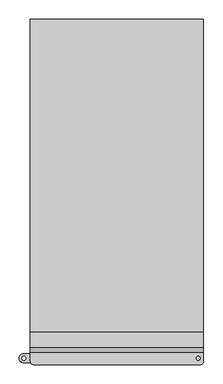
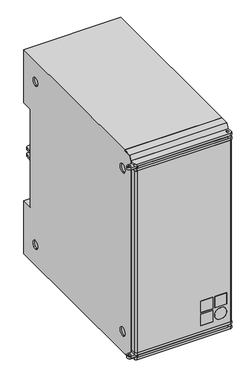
"""IFC4 building model written with IfcOpenShell, lengths in millimetres: proxy geometry, d&b SL-Series KSLi-SUB : KSLi-SUB."""

from ifc_helpers import new_model, si_unit, point, frame, frame_2d, origin, place, context, project, spatial, polyline, circle_curve, trimmed, segment, composite_curve, outline, extrude, source, transform, mapped, element, save
from ifc_brep_helpers import plane_surface, cylinder_surface, revolved_surface, advanced_brep


def communication_devices_a2a8249f(model_context):
    return source(origin(), model_context, "Body", "SolidModel", [
        extrude(outline(polyline([(2578.5, -246.9994027), (2634.5, -246.9994027), (2634.5, -256.9994027), (2578.5, -256.9994027), (2578.5, -246.9994027)])), frame((0.0, 0.0, 84.5), z_axis=(0.0, 0.0, 1.0), x_axis=(1.0, 0.0, 0.0)), (0.0, 0.0, 1.0), 56.0),
        extrude(outline(polyline([(2578.5, -246.9994027), (2634.5, -246.9994027), (2634.5, -256.9994027), (2578.5, -256.9994027), (2578.5, -246.9994027)])), frame((0.0, 0.0, 148.5), z_axis=(0.0, 0.0, 1.0), x_axis=(1.0, 0.0, 0.0)), (0.0, 0.0, 1.0), 56.0),
        extrude(outline(polyline([(2642.5, -246.9994027), (2698.5, -246.9994027), (2698.5, -256.9994027), (2642.5, -256.9994027), (2642.5, -246.9994027)])), frame((0.0, 0.0, 148.5), z_axis=(0.0, 0.0, 1.0), x_axis=(1.0, 0.0, 0.0)), (0.0, 0.0, 1.0), 56.0),
        extrude(outline(composite_curve([segment(trimmed(circle_curve(frame_2d((112.5, 2670.5)), 28.0), [point((84.5, 2670.5))], [point((140.5, 2670.5))], False, "CARTESIAN"), True, "CONTINUOUS"), segment(trimmed(circle_curve(frame_2d((112.5, 2670.5)), 28.0), [point((140.5, 2670.5))], [point((84.5, 2670.5))], False, "CARTESIAN"), True, "CONTINUOUS")], self_intersect=False)), frame((0.0, -256.9994027, 0.0), z_axis=(0.0, 1.0, 0.0), x_axis=(0.0, 0.0, 1.0)), (0.0, 0.0, 1.0), 10.0),
        advanced_brep(
        [(2275.0, -171.9994027, 1000.0), (2275.0, 639.2505973, 1000.0), (2275.0, 639.2505973, 740.0), (2275.0, 586.2505973, 740.0), (2275.0, 586.2505973, 260.0), (2275.0, 639.2505973, 260.0), (2275.0, 639.2505973, 0.0), (2275.0, -171.9994027, 0.0), (2275.0, -171.9994027, 3.0), (2275.0, -211.9316714, 3.0), (2275.0, -223.7673519, 23.5), (2275.0, -225.4994027, 23.5), (2275.0, -225.4994027, 976.5), (2275.0, -223.7673519, 976.5), (2275.0, -211.9316714, 997.0), (2275.0, -171.9994027, 997.0), (2275.0, 545.3281728, 80.7290498), (2275.0, 545.3281728, 119.5480947), (2275.0, -154.6718272, 79.3260723), (2275.0, -154.6718272, 120.3260723), (2275.0, 545.3281728, 919.2709502), (2275.0, 545.3281728, 880.4519053), (2275.0, -154.6718272, 920.6739277), (2275.0, -154.6718272, 879.6739277), (2725.0, -225.4994027, 976.5), (2725.0, -225.4994027, 23.5), (2725.0, 639.2505973, 1000.0), (2725.0, 639.2505973, 740.0), (2557.0, 639.2505973, 808.0), (2565.0, 639.2505973, 816.0), (2565.0, 639.2505973, 860.0), (2557.0, 639.2505973, 868.0), (2443.0, 639.2505973, 868.0), (2435.0, 639.2505973, 860.0), (2435.0, 639.2505973, 816.0), (2443.0, 639.2505973, 808.0), (2725.0, 586.2505973, 740.0), (2707.5431034, 586.2505973, 740.0), (2707.5431034, 561.2505973, 740.0), (2572.9310345, 561.2505973, 740.0), (2572.9310345, 586.2505973, 740.0), (2567.112069, 586.2505973, 740.0), (2567.112069, 561.2505973, 740.0), (2432.887931, 561.2505973, 740.0), (2432.887931, 586.2505973, 740.0), (2427.0689655, 586.2505973, 740.0), (2427.0689655, 561.2505973, 740.0), (2292.4568966, 561.2505973, 740.0), (2292.4568966, 586.2505973, 740.0), (2707.5431034, 561.2505973, 607.8420876), (2572.9310345, 561.2505973, 708.4158183), (2567.112069, 561.2505973, 705.4996607), (2701.7241379, 561.2505973, 604.92593), (2701.7241379, 561.2505973, 554.0), (2298.2758621, 561.2505973, 554.0), (2298.2758621, 561.2505973, 604.92593), (2432.887931, 561.2505973, 705.4996607), (2427.0689655, 561.2505973, 708.4158183), (2292.4568966, 561.2505973, 607.8420876), (2427.0689655, 561.2505973, 260.0), (2292.4568966, 561.2505973, 260.0), (2292.4568966, 561.2505973, 392.1579124), (2427.0689655, 561.2505973, 291.5841817), (2567.112069, 561.2505973, 260.0), (2432.887931, 561.2505973, 260.0), (2432.887931, 561.2505973, 294.5003393), (2298.2758621, 561.2505973, 395.07407), (2298.2758621, 561.2505973, 446.0), (2701.7241379, 561.2505973, 446.0), (2701.7241379, 561.2505973, 395.07407), (2567.112069, 561.2505973, 294.5003393), (2707.5431034, 561.2505973, 260.0), (2572.9310345, 561.2505973, 260.0), (2572.9310345, 561.2505973, 291.5841817), (2707.5431034, 561.2505973, 392.1579124), (2725.0, 639.2505973, 260.0), (2292.4568966, 586.2505973, 260.0), (2427.0689655, 586.2505973, 260.0), (2432.887931, 586.2505973, 260.0), (2567.112069, 586.2505973, 260.0), (2572.9310345, 586.2505973, 260.0), (2707.5431034, 586.2505973, 260.0), (2725.0, 586.2505973, 260.0), (2725.0, 639.2505973, 0.0), (2565.0, 639.2505973, 184.0), (2557.0, 639.2505973, 192.0), (2443.0, 639.2505973, 192.0), (2435.0, 639.2505973, 184.0), (2435.0, 639.2505973, 140.0), (2443.0, 639.2505973, 132.0), (2557.0, 639.2505973, 132.0), (2565.0, 639.2505973, 140.0), (2281.0, 545.3281728, 80.7290498), (2281.0, 545.3281728, 119.5480947), (2281.0, -154.6718272, 79.3260723), (2281.0, -154.6718272, 120.3260723), (2281.0, 545.3281728, 919.2709502), (2281.0, 545.3281728, 880.4519053), (2281.0, -154.6718272, 920.6739277), (2281.0, -154.6718272, 879.6739277), (2719.0, 545.3281728, 80.7290498), (2719.0, 545.3281728, 119.5480947), (2719.0, -154.6718272, 79.3260723), (2719.0, -154.6718272, 120.3260723), (2719.0, 545.3281728, 919.2709502), (2719.0, 545.3281728, 880.4519053), (2719.0, -154.6718272, 920.6739277), (2719.0, -154.6718272, 879.6739277), (2725.0, -171.9994027, 1000.0), (2725.0, -171.9994027, 997.0), (2725.0, -171.9994027, 0.0), (2725.0, -171.9994027, 3.0), (2725.0, -223.7673519, 976.5), (2725.0, -211.9316714, 997.0), (2725.0, -211.9316714, 3.0), (2725.0, -223.7673519, 23.5), (2725.0, 545.3281728, 80.7290498), (2725.0, 545.3281728, 119.5480947), (2725.0, -154.6718272, 79.3260723), (2725.0, -154.6718272, 120.3260723), (2725.0, 545.3281728, 919.2709502), (2725.0, 545.3281728, 880.4519053), (2725.0, -154.6718272, 920.6739277), (2725.0, -154.6718272, 879.6739277), (2292.4568966, 586.2505973, 607.8420876), (2427.0689655, 586.2505973, 708.4158183), (2432.887931, 586.2505973, 705.4996607), (2298.2758621, 586.2505973, 604.92593), (2298.2758621, 586.2505973, 554.0), (2701.7241379, 586.2505973, 554.0), (2701.7241379, 586.2505973, 604.92593), (2567.112069, 586.2505973, 705.4996607), (2572.9310345, 586.2505973, 708.4158183), (2707.5431034, 586.2505973, 607.8420876), (2707.5431034, 586.2505973, 392.1579124), (2572.9310345, 586.2505973, 291.5841817), (2567.112069, 586.2505973, 294.5003393), (2701.7241379, 586.2505973, 395.07407), (2701.7241379, 586.2505973, 446.0), (2298.2758621, 586.2505973, 446.0), (2298.2758621, 586.2505973, 395.07407), (2432.887931, 586.2505973, 294.5003393), (2427.0689655, 586.2505973, 291.5841817), (2292.4568966, 586.2505973, 392.1579124), (2557.0, 634.2505973, 192.0), (2565.0, 634.2505973, 184.0), (2565.0, 634.2505973, 140.0), (2557.0, 634.2505973, 132.0), (2443.0, 634.2505973, 132.0), (2435.0, 634.2505973, 140.0), (2435.0, 634.2505973, 184.0), (2443.0, 634.2505973, 192.0), (2445.0, 619.2505973, 818.0), (2445.0, 619.2505973, 858.0), (2555.0, 619.2505973, 858.0), (2555.0, 619.2505973, 818.0), (2445.0, 634.2505973, 818.0), (2445.0, 634.2505973, 858.0), (2555.0, 634.2505973, 858.0), (2555.0, 634.2505973, 818.0), (2557.0, 634.2505973, 808.0), (2443.0, 634.2505973, 808.0), (2435.0, 634.2505973, 816.0), (2435.0, 634.2505973, 860.0), (2443.0, 634.2505973, 868.0), (2557.0, 634.2505973, 868.0), (2565.0, 634.2505973, 860.0), (2565.0, 634.2505973, 816.0)],
        [
            (0, 1),
            (1, 2),
            (2, 3),
            (3, 4),
            (4, 5),
            (5, 6),
            (6, 7),
            (7, 8),
            (8, 9),
            (9, 10),
            (10, 11),
            (11, 12),
            (12, 13),
            (13, 14),
            (14, 15),
            (15, 0),
            (16, 17, circle_curve(frame((2275.0, 545.3281728, 100.1385723), z_axis=(1.0, 0.0, 0.0), x_axis=(0.0, 0.0, 1.0)), 19.4095225)),
            (17, 16, circle_curve(frame((2275.0, 545.3281728, 100.1385723), z_axis=(1.0, 0.0, 0.0), x_axis=(0.0, 0.0, 1.0)), 19.4095225)),
            (18, 19, circle_curve(frame((2275.0, -154.6718272, 99.8260723), z_axis=(1.0, 0.0, 0.0), x_axis=(0.0, 0.0, 1.0)), 20.5)),
            (19, 18, circle_curve(frame((2275.0, -154.6718272, 99.8260723), z_axis=(1.0, 0.0, 0.0), x_axis=(0.0, 0.0, 1.0)), 20.5)),
            (20, 21, circle_curve(frame((2275.0, 545.3281728, 899.8614277), z_axis=(1.0, 0.0, 0.0), x_axis=(0.0, 0.0, -1.0)), 19.4095225)),
            (21, 20, circle_curve(frame((2275.0, 545.3281728, 899.8614277), z_axis=(1.0, 0.0, 0.0), x_axis=(0.0, 0.0, -1.0)), 19.4095225)),
            (22, 23, circle_curve(frame((2275.0, -154.6718272, 900.1739277), z_axis=(1.0, 0.0, 0.0), x_axis=(0.0, 0.0, -1.0)), 20.5)),
            (23, 22, circle_curve(frame((2275.0, -154.6718272, 900.1739277), z_axis=(1.0, 0.0, 0.0), x_axis=(0.0, 0.0, -1.0)), 20.5)),
            (24, 12),
            (11, 25),
            (25, 24),
            (1, 26),
            (26, 27),
            (27, 2),
            (28, 29, circle_curve(frame((2557.0, 639.2505973, 816.0), z_axis=(0.0, -1.0, 0.0), x_axis=(0.0, 0.0, -1.0)), 8.0)),
            (29, 30),
            (30, 31, circle_curve(frame((2557.0, 639.2505973, 860.0), z_axis=(0.0, -1.0, 0.0), x_axis=(0.0, 0.0, -1.0)), 8.0)),
            (31, 32),
            (32, 33, circle_curve(frame((2443.0, 639.2505973, 860.0), z_axis=(0.0, -1.0, 0.0), x_axis=(0.0, 0.0, -1.0)), 8.0)),
            (33, 34),
            (34, 35, circle_curve(frame((2443.0, 639.2505973, 816.0), z_axis=(0.0, -1.0, 0.0), x_axis=(0.0, 0.0, -1.0)), 8.0)),
            (35, 28),
            (27, 36),
            (36, 37),
            (37, 38),
            (38, 39),
            (39, 40),
            (40, 41),
            (41, 42),
            (42, 43),
            (43, 44),
            (44, 45),
            (45, 46),
            (46, 47),
            (47, 48),
            (48, 3),
            (38, 49),
            (49, 50),
            (50, 39),
            (42, 51),
            (51, 52),
            (52, 53),
            (53, 54),
            (54, 55),
            (55, 56),
            (56, 43),
            (46, 57),
            (57, 58),
            (58, 47),
            (59, 60),
            (60, 61),
            (61, 62),
            (62, 59),
            (63, 64),
            (64, 65),
            (65, 66),
            (66, 67),
            (67, 68),
            (68, 69),
            (69, 70),
            (70, 63),
            (71, 72),
            (72, 73),
            (73, 74),
            (74, 71),
            (75, 5),
            (4, 76),
            (76, 60),
            (59, 77),
            (77, 78),
            (78, 64),
            (63, 79),
            (79, 80),
            (80, 72),
            (71, 81),
            (81, 82),
            (82, 75),
            (83, 6),
            (75, 83),
            (84, 85, circle_curve(frame((2557.0, 639.2505973, 184.0), z_axis=(0.0, -1.0, 0.0), x_axis=(0.0, 0.0, 1.0)), 8.0)),
            (85, 86),
            (86, 87, circle_curve(frame((2443.0, 639.2505973, 184.0), z_axis=(0.0, -1.0, 0.0), x_axis=(0.0, 0.0, 1.0)), 8.0)),
            (87, 88),
            (88, 89, circle_curve(frame((2443.0, 639.2505973, 140.0), z_axis=(0.0, -1.0, 0.0), x_axis=(0.0, 0.0, 1.0)), 8.0)),
            (89, 90),
            (90, 91, circle_curve(frame((2557.0, 639.2505973, 140.0), z_axis=(0.0, -1.0, 0.0), x_axis=(0.0, 0.0, 1.0)), 8.0)),
            (91, 84),
            (16, 92),
            (92, 93, circle_curve(frame((2281.0, 545.3281728, 100.1385723), z_axis=(1.0, 0.0, 0.0), x_axis=(0.0, 0.0, 1.0)), 19.4095225)),
            (93, 17),
            (93, 92, circle_curve(frame((2281.0, 545.3281728, 100.1385723), z_axis=(1.0, 0.0, 0.0), x_axis=(0.0, 0.0, 1.0)), 19.4095225)),
            (18, 94),
            (94, 95, circle_curve(frame((2281.0, -154.6718272, 99.8260723), z_axis=(1.0, 0.0, 0.0), x_axis=(0.0, 0.0, 1.0)), 20.5)),
            (95, 19),
            (95, 94, circle_curve(frame((2281.0, -154.6718272, 99.8260723), z_axis=(1.0, 0.0, 0.0), x_axis=(0.0, 0.0, 1.0)), 20.5)),
            (20, 96),
            (96, 97, circle_curve(frame((2281.0, 545.3281728, 899.8614277), z_axis=(1.0, 0.0, 0.0), x_axis=(0.0, 0.0, -1.0)), 19.4095225)),
            (97, 21),
            (97, 96, circle_curve(frame((2281.0, 545.3281728, 899.8614277), z_axis=(1.0, 0.0, 0.0), x_axis=(0.0, 0.0, -1.0)), 19.4095225)),
            (22, 98),
            (98, 99, circle_curve(frame((2281.0, -154.6718272, 900.1739277), z_axis=(1.0, 0.0, 0.0), x_axis=(0.0, 0.0, -1.0)), 20.5)),
            (99, 23),
            (99, 98, circle_curve(frame((2281.0, -154.6718272, 900.1739277), z_axis=(1.0, 0.0, 0.0), x_axis=(0.0, 0.0, -1.0)), 20.5)),
            (100, 101, circle_curve(frame((2719.0, 545.3281728, 100.1385723), z_axis=(1.0, 0.0, 0.0), x_axis=(0.0, 0.0, 1.0)), 19.4095225)),
            (101, 100, circle_curve(frame((2719.0, 545.3281728, 100.1385723), z_axis=(1.0, 0.0, 0.0), x_axis=(0.0, 0.0, 1.0)), 19.4095225)),
            (102, 103, circle_curve(frame((2719.0, -154.6718272, 99.8260723), z_axis=(1.0, 0.0, 0.0), x_axis=(0.0, 0.0, 1.0)), 20.5)),
            (103, 102, circle_curve(frame((2719.0, -154.6718272, 99.8260723), z_axis=(1.0, 0.0, 0.0), x_axis=(0.0, 0.0, 1.0)), 20.5)),
            (104, 105, circle_curve(frame((2719.0, 545.3281728, 899.8614277), z_axis=(1.0, 0.0, 0.0), x_axis=(0.0, 0.0, -1.0)), 19.4095225)),
            (105, 104, circle_curve(frame((2719.0, 545.3281728, 899.8614277), z_axis=(1.0, 0.0, 0.0), x_axis=(0.0, 0.0, -1.0)), 19.4095225)),
            (106, 107, circle_curve(frame((2719.0, -154.6718272, 900.1739277), z_axis=(1.0, 0.0, 0.0), x_axis=(0.0, 0.0, -1.0)), 20.5)),
            (107, 106, circle_curve(frame((2719.0, -154.6718272, 900.1739277), z_axis=(1.0, 0.0, 0.0), x_axis=(0.0, 0.0, -1.0)), 20.5)),
            (0, 108),
            (108, 26),
            (15, 109),
            (109, 108),
            (83, 110),
            (110, 7),
            (110, 111),
            (111, 8),
            (24, 112),
            (112, 13),
            (112, 113),
            (113, 14),
            (113, 109),
            (111, 114),
            (114, 9),
            (114, 115),
            (115, 10),
            (115, 25),
            (82, 36),
            (116, 117, circle_curve(frame((2725.0, 545.3281728, 100.1385723), z_axis=(-1.0, 0.0, 0.0), x_axis=(0.0, 0.0, 1.0)), 19.4095225)),
            (117, 116, circle_curve(frame((2725.0, 545.3281728, 100.1385723), z_axis=(-1.0, 0.0, 0.0), x_axis=(0.0, 0.0, 1.0)), 19.4095225)),
            (118, 119, circle_curve(frame((2725.0, -154.6718272, 99.8260723), z_axis=(-1.0, 0.0, 0.0), x_axis=(0.0, 0.0, 1.0)), 20.5)),
            (119, 118, circle_curve(frame((2725.0, -154.6718272, 99.8260723), z_axis=(-1.0, 0.0, 0.0), x_axis=(0.0, 0.0, 1.0)), 20.5)),
            (120, 121, circle_curve(frame((2725.0, 545.3281728, 899.8614277), z_axis=(-1.0, 0.0, 0.0), x_axis=(0.0, 0.0, -1.0)), 19.4095225)),
            (121, 120, circle_curve(frame((2725.0, 545.3281728, 899.8614277), z_axis=(-1.0, 0.0, 0.0), x_axis=(0.0, 0.0, -1.0)), 19.4095225)),
            (122, 123, circle_curve(frame((2725.0, -154.6718272, 900.1739277), z_axis=(-1.0, 0.0, 0.0), x_axis=(0.0, 0.0, -1.0)), 20.5)),
            (123, 122, circle_curve(frame((2725.0, -154.6718272, 900.1739277), z_axis=(-1.0, 0.0, 0.0), x_axis=(0.0, 0.0, -1.0)), 20.5)),
            (117, 101),
            (100, 116),
            (119, 103),
            (102, 118),
            (121, 105),
            (104, 120),
            (123, 107),
            (106, 122),
            (48, 124),
            (124, 125),
            (125, 45),
            (44, 126),
            (126, 127),
            (127, 128),
            (128, 129),
            (129, 130),
            (130, 131),
            (131, 41),
            (40, 132),
            (132, 133),
            (133, 37),
            (81, 134),
            (134, 135),
            (135, 80),
            (79, 136),
            (136, 137),
            (137, 138),
            (138, 139),
            (139, 140),
            (140, 141),
            (141, 78),
            (77, 142),
            (142, 143),
            (143, 76),
            (125, 57),
            (124, 58),
            (128, 54),
            (53, 129),
            (56, 126),
            (55, 127),
            (52, 130),
            (51, 131),
            (132, 50),
            (49, 133),
            (74, 134),
            (73, 135),
            (70, 136),
            (69, 137),
            (68, 138),
            (67, 139),
            (66, 140),
            (65, 141),
            (62, 142),
            (61, 143),
            (144, 145, circle_curve(frame((2557.0, 634.2505973, 184.0), z_axis=(0.0, 1.0, 0.0), x_axis=(0.0, 0.0, 1.0)), 8.0)),
            (145, 146),
            (146, 147, circle_curve(frame((2557.0, 634.2505973, 140.0), z_axis=(0.0, 1.0, 0.0), x_axis=(0.0, 0.0, 1.0)), 8.0)),
            (147, 148),
            (148, 149, circle_curve(frame((2443.0, 634.2505973, 140.0), z_axis=(0.0, 1.0, 0.0), x_axis=(0.0, 0.0, 1.0)), 8.0)),
            (149, 150),
            (150, 151, circle_curve(frame((2443.0, 634.2505973, 184.0), z_axis=(0.0, 1.0, 0.0), x_axis=(0.0, 0.0, 1.0)), 8.0)),
            (151, 144),
            (144, 85),
            (84, 145),
            (91, 146),
            (90, 147),
            (89, 148),
            (88, 149),
            (87, 150),
            (86, 151),
            (152, 153),
            (153, 154),
            (154, 155),
            (155, 152),
            (152, 156),
            (156, 157),
            (157, 153),
            (157, 158),
            (158, 154),
            (158, 159),
            (159, 155),
            (159, 156),
            (160, 161),
            (161, 162, circle_curve(frame((2443.0, 634.2505973, 816.0), z_axis=(0.0, 1.0, 0.0), x_axis=(0.0, 0.0, -1.0)), 8.0)),
            (162, 163),
            (163, 164, circle_curve(frame((2443.0, 634.2505973, 860.0), z_axis=(0.0, 1.0, 0.0), x_axis=(0.0, 0.0, -1.0)), 8.0)),
            (164, 165),
            (165, 166, circle_curve(frame((2557.0, 634.2505973, 860.0), z_axis=(0.0, 1.0, 0.0), x_axis=(0.0, 0.0, -1.0)), 8.0)),
            (166, 167),
            (167, 160, circle_curve(frame((2557.0, 634.2505973, 816.0), z_axis=(0.0, 1.0, 0.0), x_axis=(0.0, 0.0, -1.0)), 8.0)),
            (167, 29),
            (28, 160),
            (166, 30),
            (165, 31),
            (164, 32),
            (163, 33),
            (162, 34),
            (161, 35),
        ],
        [
            plane_surface(frame((2275.0, -225.4994027, 930.0), z_axis=(-1.0, 0.0, 0.0), x_axis=(0.0, 1.0, 0.0))),
            plane_surface(frame((2275.0, -225.4994027, 70.0), z_axis=(0.0, -1.0, 0.0), x_axis=(1.0, 0.0, 0.0))),
            plane_surface(frame((2275.0, 639.2505973, 930.0), z_axis=(0.0, 1.0, 0.0), x_axis=(1.0, 0.0, 0.0))),
            plane_surface(frame((2275.0, 639.2505973, 740.0), z_axis=(0.0, 0.0, -1.0), x_axis=(1.0, 0.0, 0.0))),
            plane_surface(frame((2275.0, 561.2505973, 740.0), z_axis=(0.0, 1.0, 0.0), x_axis=(1.0, 0.0, 0.0))),
            plane_surface(frame((2275.0, 561.2505973, 260.0), z_axis=(0.0, 0.0, 1.0), x_axis=(1.0, 0.0, 0.0))),
            plane_surface(frame((2275.0, 639.2505973, 260.0), z_axis=(0.0, 1.0, 0.0), x_axis=(1.0, 0.0, 0.0))),
            revolved_surface(polyline([(2281.0, 545.3281728, 119.5480948), (2275.0, 545.3281728, 119.5480948)]), (2250.0, 545.3281728, 100.1385723), (1.0, 0.0, 0.0)),
            revolved_surface(polyline([(2281.0, -154.6718272, 120.3260723), (2275.0, -154.6718272, 120.3260723)]), (2250.0, -154.6718272, 99.8260723), (1.0, 0.0, 0.0)),
            revolved_surface(polyline([(2281.0, 545.3281728, 880.4519052), (2275.0, 545.3281728, 880.4519052)]), (2250.0, 545.3281728, 899.8614277), (1.0, 0.0, 0.0)),
            revolved_surface(polyline([(2281.0, -154.6718272, 879.6739277), (2275.0, -154.6718272, 879.6739277)]), (2250.0, -154.6718272, 900.1739277), (1.0, 0.0, 0.0)),
            plane_surface(frame((2719.0, -225.4994027, 930.0), z_axis=(1.0, 0.0, 0.0), x_axis=(0.0, -1.0, 0.0))),
            plane_surface(frame((2281.0, -225.4994027, 930.0), z_axis=(-1.0, 0.0, 0.0), x_axis=(0.0, 1.0, 0.0))),
            plane_surface(frame((2275.0, 960.0005973, 1000.0), z_axis=(0.0, 0.0, 1.0), x_axis=(0.0, -1.0, 0.0))),
            plane_surface(frame((2725.0, -171.9994027, 930.0), z_axis=(0.0, -1.0, 0.0), x_axis=(0.0, 0.0, 1.0))),
            plane_surface(frame((2804.8, -171.9994027, 0.0), z_axis=(0.0, 0.0, -1.0), x_axis=(-1.0, 0.0, 0.0))),
            plane_surface(frame((2275.0, -171.9994027, 70.0), z_axis=(0.0, -1.0, 0.0), x_axis=(0.0, 0.0, -1.0))),
            plane_surface(frame((2275.0, -225.4994027, 976.5), z_axis=(0.0, 0.0, 1.0), x_axis=(1.0, 0.0, 0.0))),
            plane_surface(frame((2275.0, -223.7673519, 976.5), z_axis=(0.0, -0.86602540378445, 0.4999999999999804), x_axis=(1.0, 0.0, 0.0))),
            plane_surface(frame((2275.0, -211.9316714, 997.0), z_axis=(0.0, 0.0, 1.0), x_axis=(1.0, 0.0, 0.0))),
            plane_surface(frame((2275.0, -171.9994027, 3.0), z_axis=(0.0, 0.0, -1.0), x_axis=(1.0, 0.0, 0.0))),
            plane_surface(frame((2275.0, -211.9316714, 3.0), z_axis=(0.0, -0.8660254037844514, -0.49999999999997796), x_axis=(1.0, 0.0, 0.0))),
            plane_surface(frame((2275.0, -223.7673519, 23.5), z_axis=(0.0, 0.0, -1.0), x_axis=(1.0, 0.0, 0.0))),
            plane_surface(frame((2725.0, 639.2505973, 930.0), z_axis=(1.0, 0.0, 0.0), x_axis=(0.0, 0.0, 1.0))),
            revolved_surface(polyline([(2725.0, 545.3281728, 119.5480948), (2719.0, 545.3281728, 119.5480948)]), (2810.0, 545.3281728, 100.1385723), (1.0, 0.0, 0.0)),
            revolved_surface(polyline([(2725.0, -154.6718272, 120.3260723), (2719.0, -154.6718272, 120.3260723)]), (2810.0, -154.6718272, 99.8260723), (1.0, 0.0, 0.0)),
            revolved_surface(polyline([(2725.0, 545.3281728, 880.4519052), (2719.0, 545.3281728, 880.4519052)]), (2810.0, 545.3281728, 899.8614277), (1.0, 0.0, 0.0)),
            revolved_surface(polyline([(2725.0, -154.6718272, 879.6739277), (2719.0, -154.6718272, 879.6739277)]), (2810.0, -154.6718272, 900.1739277), (1.0, 0.0, 0.0)),
            plane_surface(frame((2857.4784483, 586.2505973, 740.0), z_axis=(0.0, 1.0, 0.0), x_axis=(1.0, 0.0, 0.0))),
            plane_surface(frame((2427.0689655, 586.2505973, 708.4158183), z_axis=(-1.0, 0.0, 0.0), x_axis=(0.0, -1.0, 0.0))),
            plane_surface(frame((2292.4568966, 586.2505973, 607.8420876), z_axis=(-0.598531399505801, 0.0, 0.8010993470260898), x_axis=(0.0, -1.0, 0.0))),
            plane_surface(frame((2298.2758621, 586.2505973, 554.0), z_axis=(0.0, 0.0, 1.0), x_axis=(0.0, -1.0, 0.0))),
            plane_surface(frame((2432.887931, 586.2505973, 740.0), z_axis=(1.0, 0.0, 0.0), x_axis=(0.0, -1.0, 0.0))),
            plane_surface(frame((2432.887931, 586.2505973, 705.4996607), z_axis=(0.5985313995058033, 0.0, -0.801099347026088), x_axis=(0.0, -1.0, 0.0))),
            plane_surface(frame((2298.2758621, 586.2505973, 604.92593), z_axis=(1.0, 0.0, 0.0), x_axis=(0.0, -1.0, 0.0))),
            plane_surface(frame((2701.7241379, 586.2505973, 554.0), z_axis=(-1.0, 0.0, 0.0), x_axis=(0.0, -1.0, 0.0))),
            plane_surface(frame((2701.7241379, 586.2505973, 604.92593), z_axis=(-0.5985313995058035, 0.0, -0.8010993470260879), x_axis=(0.0, -1.0, 0.0))),
            plane_surface(frame((2567.112069, 586.2505973, 705.4996607), z_axis=(-1.0, 0.0, 0.0), x_axis=(0.0, -1.0, 0.0))),
            plane_surface(frame((2292.4568966, 586.2505973, 740.0), z_axis=(1.0, 0.0, 0.0), x_axis=(0.0, -1.0, 0.0))),
            plane_surface(frame((2572.9310345, 586.2505973, 708.4158183), z_axis=(0.5985313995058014, 0.0, 0.8010993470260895), x_axis=(0.0, -1.0, 0.0))),
            plane_surface(frame((2707.5431034, 586.2505973, 607.8420876), z_axis=(-1.0, 0.0, 0.0), x_axis=(0.0, -1.0, 0.0))),
            plane_surface(frame((2572.9310345, 586.2505973, 740.0), z_axis=(1.0, 0.0, 0.0), x_axis=(0.0, -1.0, 0.0))),
            plane_surface(frame((2707.5431034, 586.2505973, 260.0), z_axis=(-1.0, 0.0, 0.0), x_axis=(0.0, -1.0, 0.0))),
            plane_surface(frame((2707.5431034, 586.2505973, 392.1579124), z_axis=(0.5985313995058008, 0.0, -0.8010993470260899), x_axis=(0.0, -1.0, 0.0))),
            plane_surface(frame((2572.9310345, 586.2505973, 291.5841817), z_axis=(1.0, 0.0, 0.0), x_axis=(0.0, -1.0, 0.0))),
            plane_surface(frame((2567.112069, 586.2505973, 260.0), z_axis=(-1.0, 0.0, 0.0), x_axis=(0.0, -1.0, 0.0))),
            plane_surface(frame((2567.112069, 586.2505973, 294.5003393), z_axis=(-0.5985313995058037, 0.0, 0.8010993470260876), x_axis=(0.0, -1.0, 0.0))),
            plane_surface(frame((2701.7241379, 586.2505973, 395.07407), z_axis=(-1.0, 0.0, 0.0), x_axis=(0.0, -1.0, 0.0))),
            plane_surface(frame((2701.7241379, 586.2505973, 446.0), z_axis=(0.0, 0.0, -1.0), x_axis=(0.0, -1.0, 0.0))),
            plane_surface(frame((2298.2758621, 586.2505973, 446.0), z_axis=(1.0, 0.0, 0.0), x_axis=(0.0, -1.0, 0.0))),
            plane_surface(frame((2298.2758621, 586.2505973, 395.07407), z_axis=(0.5985313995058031, 0.0, 0.8010993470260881), x_axis=(0.0, -1.0, 0.0))),
            plane_surface(frame((2432.887931, 586.2505973, 294.5003393), z_axis=(1.0, 0.0, 0.0), x_axis=(0.0, -1.0, 0.0))),
            plane_surface(frame((2427.0689655, 586.2505973, 260.0), z_axis=(-1.0, 0.0, 0.0), x_axis=(0.0, -1.0, 0.0))),
            plane_surface(frame((2427.0689655, 586.2505973, 291.5841817), z_axis=(-0.5985313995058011, 0.0, -0.8010993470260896), x_axis=(0.0, -1.0, 0.0))),
            plane_surface(frame((2292.4568966, 586.2505973, 392.1579124), z_axis=(1.0, 0.0, 0.0), x_axis=(0.0, -1.0, 0.0))),
            plane_surface(frame((2433.0, 634.2505973, 192.0), z_axis=(0.0, 1.0, 0.0), x_axis=(-1.0, 0.0, 0.0))),
            revolved_surface(polyline([(2557.0, 634.2505973, 192.0), (2557.0, 639.2505973, 192.0)]), (2557.0, 639.2505973, 184.0), (0.0, -1.0, 0.0)),
            plane_surface(frame((2565.0, 634.2505973, 140.0), z_axis=(-1.0, 0.0, 0.0), x_axis=(0.0, 1.0, 0.0))),
            revolved_surface(polyline([(2557.0, 634.2505973, 148.0), (2557.0, 639.2505973, 148.0)]), (2557.0, 639.2505973, 140.0), (0.0, -1.0, 0.0)),
            plane_surface(frame((2443.0, 634.2505973, 132.0), z_axis=(0.0, 0.0, 1.0), x_axis=(0.0, 1.0, 0.0))),
            revolved_surface(polyline([(2443.0, 634.2505973, 148.0), (2443.0, 639.2505973, 148.0)]), (2443.0, 639.2505973, 140.0), (0.0, -1.0, 0.0)),
            plane_surface(frame((2435.0, 634.2505973, 184.0), z_axis=(1.0, 0.0, 0.0), x_axis=(0.0, 1.0, 0.0))),
            revolved_surface(polyline([(2443.0, 634.2505973, 192.0), (2443.0, 639.2505973, 192.0)]), (2443.0, 639.2505973, 184.0), (0.0, -1.0, 0.0)),
            plane_surface(frame((2557.0, 634.2505973, 192.0), z_axis=(0.0, 0.0, -1.0), x_axis=(0.0, 1.0, 0.0))),
            plane_surface(frame((2433.0, 619.2505973, 818.0), z_axis=(0.0, 1.0, 0.0), x_axis=(1.0, 0.0, 0.0))),
            plane_surface(frame((2445.0, 619.2505973, 858.0), z_axis=(1.0, 0.0, 0.0), x_axis=(0.0, 1.0, 0.0))),
            plane_surface(frame((2555.0, 619.2505973, 858.0), z_axis=(0.0, 0.0, -1.0), x_axis=(0.0, 1.0, 0.0))),
            plane_surface(frame((2555.0, 619.2505973, 818.0), z_axis=(-1.0, 0.0, 0.0), x_axis=(0.0, 1.0, 0.0))),
            plane_surface(frame((2445.0, 619.2505973, 818.0), z_axis=(0.0, 0.0, 1.0), x_axis=(0.0, 1.0, 0.0))),
            plane_surface(frame((2557.0, 634.2505973, 808.0), z_axis=(0.0, 1.0, 0.0), x_axis=(1.0, 0.0, 0.0))),
            revolved_surface(polyline([(2557.0, 634.2505973, 808.0), (2557.0, 639.2505973, 808.0)]), (2557.0, 639.2505973, 816.0), (0.0, -1.0, 0.0)),
            plane_surface(frame((2565.0, 634.2505973, 816.0), z_axis=(-1.0, 0.0, 0.0), x_axis=(0.0, 1.0, 0.0))),
            revolved_surface(polyline([(2557.0, 634.2505973, 852.0), (2557.0, 639.2505973, 852.0)]), (2557.0, 639.2505973, 860.0), (0.0, -1.0, 0.0)),
            plane_surface(frame((2557.0, 634.2505973, 868.0), z_axis=(0.0, 0.0, -1.0), x_axis=(0.0, 1.0, 0.0))),
            revolved_surface(polyline([(2443.0, 634.2505973, 852.0), (2443.0, 639.2505973, 852.0)]), (2443.0, 639.2505973, 860.0), (0.0, -1.0, 0.0)),
            plane_surface(frame((2435.0, 634.2505973, 860.0), z_axis=(1.0, 0.0, 0.0), x_axis=(0.0, 1.0, 0.0))),
            revolved_surface(polyline([(2443.0, 634.2505973, 808.0), (2443.0, 639.2505973, 808.0)]), (2443.0, 639.2505973, 816.0), (0.0, -1.0, 0.0)),
            plane_surface(frame((2443.0, 634.2505973, 808.0), z_axis=(0.0, 0.0, 1.0), x_axis=(0.0, 1.0, 0.0))),
        ],
        [
            (0, [[1, 2, 3, 4, 5, 6, 7, 8, 9, 10, 11, 12, 13, 14, 15, 16], [17, 18], [19, 20], [21, 22], [23, 24]]),
            (1, [[25, -12, 26, 27]]),
            (2, [[28, 29, 30, -2], [31, 32, 33, 34, 35, 36, 37, 38]]),
            (3, [[-30, 39, 40, 41, 42, 43, 44, 45, 46, 47, 48, 49, 50, 51, 52, -3]]),
            (4, [[-42, 53, 54, 55]]),
            (4, [[-46, 56, 57, 58, 59, 60, 61, 62]]),
            (4, [[-50, 63, 64, 65]]),
            (4, [[66, 67, 68, 69]]),
            (4, [[70, 71, 72, 73, 74, 75, 76, 77]]),
            (4, [[78, 79, 80, 81]]),
            (5, [[82, -5, 83, 84, -66, 85, 86, 87, -70, 88, 89, 90, -78, 91, 92, 93]]),
            (6, [[94, -6, -82, 95], [96, 97, 98, 99, 100, 101, 102, 103]]),
            (7, [[-17, 104, 105, 106]]),
            (7, [[-18, -106, 107, -104]]),
            (8, [[-19, 108, 109, 110]]),
            (8, [[-20, -110, 111, -108]]),
            (9, [[-21, 112, 113, 114]]),
            (9, [[-22, -114, 115, -112]]),
            (10, [[-23, 116, 117, 118]]),
            (10, [[-24, -118, 119, -116]]),
            (11, [[120, 121]]),
            (11, [[122, 123]]),
            (11, [[124, 125]]),
            (11, [[126, 127]]),
            (12, [[-105, -107]]),
            (12, [[-109, -111]]),
            (12, [[-113, -115]]),
            (12, [[-117, -119]]),
            (13, [[128, 129, -28, -1]]),
            (14, [[-128, -16, 130, 131]]),
            (15, [[-7, -94, 132, 133]]),
            (16, [[-133, 134, 135, -8]]),
            (17, [[-13, -25, 136, 137]]),
            (18, [[-14, -137, 138, 139]]),
            (19, [[-15, -139, 140, -130]]),
            (20, [[-9, -135, 141, 142]]),
            (21, [[-10, -142, 143, 144]]),
            (22, [[-11, -144, 145, -26]]),
            (23, [[-129, -131, -140, -138, -136, -27, -145, -143, -141, -134, -132, -95, -93, 146, -39, -29], [147, 148], [149, 150], [151, 152], [153, 154]]),
            (24, [[-148, 155, -120, 156]]),
            (24, [[-147, -156, -121, -155]]),
            (25, [[-150, 157, -122, 158]]),
            (25, [[-149, -158, -123, -157]]),
            (26, [[-152, 159, -124, 160]]),
            (26, [[-151, -160, -125, -159]]),
            (27, [[-154, 161, -126, 162]]),
            (27, [[-153, -162, -127, -161]]),
            (28, [[163, 164, 165, -48, 166, 167, 168, 169, 170, 171, 172, -44, 173, 174, 175, -40, -146, -92, 176, 177, 178, -89, 179, 180, 181, 182, 183, 184, 185, -86, 186, 187, 188, -83, -4, -52]]),
            (29, [[-165, 189, -63, -49]]),
            (30, [[-164, 190, -64, -189]]),
            (31, [[-169, 191, -59, 192]]),
            (32, [[-166, -47, -62, 193]]),
            (33, [[-167, -193, -61, 194]]),
            (34, [[-168, -194, -60, -191]]),
            (35, [[-170, -192, -58, 195]]),
            (36, [[-171, -195, -57, 196]]),
            (37, [[-172, -196, -56, -45]]),
            (38, [[-163, -51, -65, -190]]),
            (39, [[-174, 197, -54, 198]]),
            (40, [[-175, -198, -53, -41]]),
            (41, [[-173, -43, -55, -197]]),
            (42, [[-176, -91, -81, 199]]),
            (43, [[-177, -199, -80, 200]]),
            (44, [[-178, -200, -79, -90]]),
            (45, [[-179, -88, -77, 201]]),
            (46, [[-180, -201, -76, 202]]),
            (47, [[-181, -202, -75, 203]]),
            (48, [[-182, -203, -74, 204]]),
            (49, [[-183, -204, -73, 205]]),
            (50, [[-184, -205, -72, 206]]),
            (51, [[-185, -206, -71, -87]]),
            (52, [[-186, -85, -69, 207]]),
            (53, [[-187, -207, -68, 208]]),
            (54, [[-188, -208, -67, -84]]),
            (55, [[209, 210, 211, 212, 213, 214, 215, 216]]),
            (56, [[-209, 217, -96, 218]]),
            (57, [[-210, -218, -103, 219]]),
            (58, [[-211, -219, -102, 220]]),
            (59, [[-212, -220, -101, 221]]),
            (60, [[-213, -221, -100, 222]]),
            (61, [[-214, -222, -99, 223]]),
            (62, [[-215, -223, -98, 224]]),
            (63, [[-216, -224, -97, -217]]),
            (64, [[225, 226, 227, 228]]),
            (65, [[-225, 229, 230, 231]]),
            (66, [[-226, -231, 232, 233]]),
            (67, [[-227, -233, 234, 235]]),
            (68, [[-228, -235, 236, -229]]),
            (69, [[237, 238, 239, 240, 241, 242, 243, 244], [-230, -236, -234, -232]]),
            (70, [[-244, 245, -31, 246]]),
            (71, [[-243, 247, -32, -245]]),
            (72, [[-242, 248, -33, -247]]),
            (73, [[-241, 249, -34, -248]]),
            (74, [[-240, 250, -35, -249]]),
            (75, [[-239, 251, -36, -250]]),
            (76, [[-238, 252, -37, -251]]),
            (77, [[-237, -246, -38, -252]]),
        ],
    ),
        extrude(outline(composite_curve([segment(trimmed(circle_curve(frame_2d((816.0, 2557.0)), 8.0), [point((808.0, 2557.0))], [point((816.0, 2565.0))], False, "CARTESIAN"), True, "CONTINUOUS"), segment(polyline([(816.0, 2565.0), (860.0, 2565.0)]), True, "CONTINUOUS"), segment(trimmed(circle_curve(frame_2d((860.0, 2557.0)), 8.0), [point((860.0, 2565.0))], [point((868.0, 2557.0))], False, "CARTESIAN"), True, "CONTINUOUS"), segment(polyline([(868.0, 2557.0), (868.0, 2443.0)]), True, "CONTINUOUS"), segment(trimmed(circle_curve(frame_2d((860.0, 2443.0)), 8.0), [point((868.0, 2443.0))], [point((860.0, 2435.0))], False, "CARTESIAN"), True, "CONTINUOUS"), segment(polyline([(860.0, 2435.0), (816.0, 2435.0)]), True, "CONTINUOUS"), segment(trimmed(circle_curve(frame_2d((816.0, 2443.0)), 8.0), [point((816.0, 2435.0))], [point((808.0, 2443.0))], False, "CARTESIAN"), True, "CONTINUOUS"), segment(polyline([(808.0, 2443.0), (808.0, 2557.0)]), True, "CONTINUOUS")], self_intersect=False), holes=[polyline([(818.0, 2445.0), (858.0, 2445.0), (858.0, 2555.0), (818.0, 2555.0), (818.0, 2445.0)])]), frame((0.0, 634.2505973, 0.0), z_axis=(0.0, 1.0, 0.0), x_axis=(0.0, 0.0, 1.0)), (0.0, 0.0, 1.0), 5.0),
        extrude(outline(composite_curve([segment(polyline([(2718.9562557, 592.2505973), (2281.0437443, 592.2505973), (2284.2334182, 628.7087366)]), True, "CONTINUOUS"), segment(trimmed(circle_curve(frame_2d((2294.2752789, 628.7087366)), 10.0418607), [point((2284.2334182, 628.7087366))], [point((2294.2752789, 638.7505973))], False, "CARTESIAN"), True, "CONTINUOUS"), segment(polyline([(2294.2752789, 638.7505973), (2705.7247211, 638.7505973)]), True, "CONTINUOUS"), segment(trimmed(circle_curve(frame_2d((2705.7247211, 628.7505973)), 10.0), [point((2705.7247211, 638.7505973))], [point((2715.6866681, 629.6221547))], False, "CARTESIAN"), True, "CONTINUOUS"), segment(polyline([(2715.6866681, 629.6221547), (2718.9562557, 592.2505973)]), True, "CONTINUOUS")], self_intersect=False)), frame((0.0, 0.0, 478.75), z_axis=(0.0, 0.0, 1.0), x_axis=(1.0, 0.0, 0.0)), (0.0, 0.0, 1.0), 10.0),
        extrude(outline(composite_curve([segment(polyline([(2718.9562557, 592.2505973), (2281.0437443, 592.2505973), (2284.2334182, 628.7087366)]), True, "CONTINUOUS"), segment(trimmed(circle_curve(frame_2d((2294.2752789, 628.7087366)), 10.0418607), [point((2284.2334182, 628.7087366))], [point((2294.2752789, 638.7505973))], False, "CARTESIAN"), True, "CONTINUOUS"), segment(polyline([(2294.2752789, 638.7505973), (2705.7247211, 638.7505973)]), True, "CONTINUOUS"), segment(trimmed(circle_curve(frame_2d((2705.7247211, 628.7505973)), 10.0), [point((2705.7247211, 638.7505973))], [point((2715.6866681, 629.6221547))], False, "CARTESIAN"), True, "CONTINUOUS"), segment(polyline([(2715.6866681, 629.6221547), (2718.9562557, 592.2505973)]), True, "CONTINUOUS")], self_intersect=False)), frame((0.0, 0.0, 511.25), z_axis=(0.0, 0.0, 1.0), x_axis=(1.0, 0.0, 0.0)), (0.0, 0.0, 1.0), 10.0),
        extrude(outline(composite_curve([segment(trimmed(circle_curve(frame_2d((456.0, 2709.0)), 10.0), [point((446.0, 2709.0))], [point((456.0, 2719.0))], False, "CARTESIAN"), True, "CONTINUOUS"), segment(polyline([(456.0, 2719.0), (544.0, 2719.0)]), True, "CONTINUOUS"), segment(trimmed(circle_curve(frame_2d((544.0, 2709.0)), 10.0), [point((544.0, 2719.0))], [point((554.0, 2709.0))], False, "CARTESIAN"), True, "CONTINUOUS"), segment(polyline([(554.0, 2709.0), (554.0, 2291.0)]), True, "CONTINUOUS"), segment(trimmed(circle_curve(frame_2d((544.0, 2291.0)), 10.0), [point((554.0, 2291.0))], [point((544.0, 2281.0))], False, "CARTESIAN"), True, "CONTINUOUS"), segment(polyline([(544.0, 2281.0), (456.0, 2281.0)]), True, "CONTINUOUS"), segment(trimmed(circle_curve(frame_2d((456.0, 2291.0)), 10.0), [point((456.0, 2281.0))], [point((446.0, 2291.0))], False, "CARTESIAN"), True, "CONTINUOUS"), segment(polyline([(446.0, 2291.0), (446.0, 2709.0)]), True, "CONTINUOUS")], self_intersect=False)), frame((0.0, 586.2505973, 0.0), z_axis=(0.0, 1.0, 0.0), x_axis=(0.0, 0.0, 1.0)), (0.0, 0.0, 1.0), 6.0),
        extrude(outline(polyline([(554.0, 2701.7241379), (604.92593, 2701.7241379), (705.4996607, 2567.112069), (740.0, 2567.112069), (740.0, 2432.887931), (705.4996607, 2432.887931), (604.92593, 2298.2758621), (554.0, 2298.2758621), (554.0, 2701.7241379)])), frame((0.0, 561.2505973, 0.0), z_axis=(0.0, 1.0, 0.0), x_axis=(0.0, 0.0, 1.0)), (0.0, 0.0, 1.0), 25.0),
        extrude(outline(polyline([(446.0, 2701.7241379), (446.0, 2298.2758621), (395.07407, 2298.2758621), (294.5003393, 2432.887931), (260.0, 2432.887931), (260.0, 2567.112069), (294.5003393, 2567.112069), (395.07407, 2701.7241379), (446.0, 2701.7241379)])), frame((0.0, 561.2505973, 0.0), z_axis=(0.0, 1.0, 0.0), x_axis=(0.0, 0.0, 1.0)), (0.0, 0.0, 1.0), 25.0),
        extrude(outline(polyline([(607.8420876, 2292.4568966), (708.4158183, 2427.0689655), (740.0, 2427.0689655), (740.0, 2292.4568966), (607.8420876, 2292.4568966)])), frame((0.0, 561.2505973, 0.0), z_axis=(0.0, 1.0, 0.0), x_axis=(0.0, 0.0, 1.0)), (0.0, 0.0, 1.0), 25.0),
        extrude(outline(polyline([(392.1579124, 2292.4568966), (260.0, 2292.4568966), (260.0, 2427.0689655), (291.5841817, 2427.0689655), (392.1579124, 2292.4568966)])), frame((0.0, 561.2505973, 0.0), z_axis=(0.0, 1.0, 0.0), x_axis=(0.0, 0.0, 1.0)), (0.0, 0.0, 1.0), 25.0),
        extrude(outline(polyline([(607.8420876, 2707.5431034), (740.0, 2707.5431034), (740.0, 2572.9310345), (708.4158183, 2572.9310345), (607.8420876, 2707.5431034)])), frame((0.0, 561.2505973, 0.0), z_axis=(0.0, 1.0, 0.0), x_axis=(0.0, 0.0, 1.0)), (0.0, 0.0, 1.0), 25.0),
        extrude(outline(polyline([(392.1579124, 2707.5431034), (291.5841817, 2572.9310345), (260.0, 2572.9310345), (260.0, 2707.5431034), (392.1579124, 2707.5431034)])), frame((0.0, 561.2505973, 0.0), z_axis=(0.0, 1.0, 0.0), x_axis=(0.0, 0.0, 1.0)), (0.0, 0.0, 1.0), 25.0),
        extrude(outline(composite_curve([segment(trimmed(circle_curve(frame_2d((2258.0, -240.2494027)), 12.0), [point((2258.0, -252.2494027))], [point((2258.0, -228.2494027))], False, "CARTESIAN"), True, "CONTINUOUS"), segment(polyline([(2258.0, -228.2494027), (2285.8033696, -228.2494027), (2285.8033696, -252.2494027), (2258.0, -252.2494027)]), True, "CONTINUOUS")], self_intersect=False), holes=[composite_curve([segment(trimmed(circle_curve(frame_2d((2258.0, -240.2494027)), 5.15), [point((2258.0, -245.3994027))], [point((2258.0, -235.0994027))], True, "CARTESIAN"), True, "CONTINUOUS"), segment(trimmed(circle_curve(frame_2d((2258.0, -240.2494027)), 5.15), [point((2258.0, -235.0994027))], [point((2258.0, -245.3994027))], True, "CARTESIAN"), True, "CONTINUOUS")], self_intersect=False)]), frame((0.0, 0.0, 957.5), z_axis=(0.0, 0.0, 1.0), x_axis=(1.0, 0.0, 0.0)), (0.0, 0.0, 1.0), 10.0),
        extrude(outline(polyline([(2285.8033696, -256.9994027), (2285.8033696, -225.4994027), (2703.4, -225.4994027), (2703.4, -256.9994027), (2285.8033696, -256.9994027)])), frame((0.0, 0.0, 957.5), z_axis=(0.0, 0.0, 1.0), x_axis=(1.0, 0.0, 0.0)), (0.0, 0.0, 1.0), 10.0),
        extrude(outline(composite_curve([segment(trimmed(circle_curve(frame_2d((2284.0, -247.9994027)), 9.0), [point((2284.0, -256.9994027))], [point((2275.0, -247.9994027))], False, "CARTESIAN"), True, "CONTINUOUS"), segment(polyline([(2275.0, -247.9994027), (2275.0, -225.4994027), (2725.0, -225.4994027), (2725.0, -247.9994027)]), True, "CONTINUOUS"), segment(trimmed(circle_curve(frame_2d((2716.0, -247.9994027)), 9.0), [point((2725.0, -247.9994027))], [point((2716.0, -256.9994027))], False, "CARTESIAN"), True, "CONTINUOUS"), segment(polyline([(2716.0, -256.9994027), (2284.0, -256.9994027)]), True, "CONTINUOUS")], self_intersect=False)), frame((0.0, 0.0, 945.5), z_axis=(0.0, 0.0, 1.0), x_axis=(1.0, 0.0, 0.0)), (0.0, 0.0, 1.0), 12.0),
        extrude(outline(composite_curve([segment(trimmed(circle_curve(frame_2d((2284.0, -247.9994027)), 9.0), [point((2284.0, -256.9994027))], [point((2275.0, -247.9994027))], False, "CARTESIAN"), True, "CONTINUOUS"), segment(polyline([(2275.0, -247.9994027), (2275.0, -225.4994027), (2725.0, -225.4994027), (2725.0, -247.9994027)]), True, "CONTINUOUS"), segment(trimmed(circle_curve(frame_2d((2716.0, -247.9994027)), 9.0), [point((2725.0, -247.9994027))], [point((2716.0, -256.9994027))], False, "CARTESIAN"), True, "CONTINUOUS"), segment(polyline([(2716.0, -256.9994027), (2284.0, -256.9994027)]), True, "CONTINUOUS")], self_intersect=False), holes=[composite_curve([segment(trimmed(circle_curve(frame_2d((2711.4836141, -240.2494027)), 5.2), [point((2711.4836141, -245.4494027))], [point((2711.4836141, -235.0494027))], True, "CARTESIAN"), True, "CONTINUOUS"), segment(trimmed(circle_curve(frame_2d((2711.4836141, -240.2494027)), 5.2), [point((2711.4836141, -235.0494027))], [point((2711.4836141, -245.4494027))], True, "CARTESIAN"), True, "CONTINUOUS")], self_intersect=False)]), frame((0.0, 0.0, 967.5), z_axis=(0.0, 0.0, 1.0), x_axis=(1.0, 0.0, 0.0)), (0.0, 0.0, 1.0), 12.0),
        advanced_brep(
        [(2578.5, -246.9994027, 140.5), (2578.5, -246.9994027, 84.5), (2634.5, -246.9994027, 84.5), (2634.5, -246.9994027, 140.5), (2578.5, -246.9994027, 204.5), (2578.5, -246.9994027, 148.5), (2634.5, -246.9994027, 148.5), (2634.5, -246.9994027, 204.5), (2642.5, -246.9994027, 204.5), (2642.5, -246.9994027, 148.5), (2698.5, -246.9994027, 148.5), (2698.5, -246.9994027, 204.5), (2670.5, -246.9994027, 84.5), (2670.5, -246.9994027, 140.5), (2634.5, -256.9994027, 140.5), (2578.5, -256.9994027, 140.5), (2634.5, -256.9994027, 84.5), (2578.5, -256.9994027, 84.5), (2634.5, -256.9994027, 204.5), (2578.5, -256.9994027, 204.5), (2634.5, -256.9994027, 148.5), (2578.5, -256.9994027, 148.5), (2698.5, -256.9994027, 204.5), (2642.5, -256.9994027, 204.5), (2698.5, -256.9994027, 148.5), (2642.5, -256.9994027, 148.5), (2670.5, -256.9994027, 140.5), (2670.5, -256.9994027, 84.5), (2725.0, -225.4994027, 945.5), (2275.0, -225.4994027, 945.5), (2275.0, -246.9994027, 945.5), (2285.0, -256.9994027, 945.5), (2715.0, -256.9994027, 945.5), (2725.0, -246.9994027, 945.5), (2725.0, -225.4994027, 54.5), (2725.0, -246.9994027, 54.5), (2715.0, -256.9994027, 54.5), (2285.0, -256.9994027, 54.5), (2275.0, -246.9994027, 54.5), (2275.0, -225.4994027, 54.5)],
        [
            (0, 1),
            (1, 2),
            (2, 3),
            (3, 0),
            (4, 5),
            (5, 6),
            (6, 7),
            (7, 4),
            (8, 9),
            (9, 10),
            (10, 11),
            (11, 8),
            (12, 13, circle_curve(frame((2670.5, -246.9994027, 112.5), z_axis=(0.0, -1.0, 0.0), x_axis=(0.0, 0.0, 1.0)), 28.0)),
            (13, 12, circle_curve(frame((2670.5, -246.9994027, 112.5), z_axis=(0.0, -1.0, 0.0), x_axis=(0.0, 0.0, 1.0)), 28.0)),
            (3, 14),
            (14, 15),
            (15, 0),
            (2, 16),
            (16, 14),
            (1, 17),
            (17, 16),
            (15, 17),
            (7, 18),
            (18, 19),
            (19, 4),
            (6, 20),
            (20, 18),
            (5, 21),
            (21, 20),
            (19, 21),
            (11, 22),
            (22, 23),
            (23, 8),
            (10, 24),
            (24, 22),
            (9, 25),
            (25, 24),
            (23, 25),
            (13, 26),
            (26, 27, circle_curve(frame((2670.5, -256.9994027, 112.5), z_axis=(0.0, -1.0, 0.0), x_axis=(0.0, 0.0, 1.0)), 28.0)),
            (27, 12),
            (27, 26, circle_curve(frame((2670.5, -256.9994027, 112.5), z_axis=(0.0, -1.0, 0.0), x_axis=(0.0, 0.0, 1.0)), 28.0)),
            (28, 29),
            (29, 30),
            (30, 31, circle_curve(frame((2285.0, -246.9994027, 945.5), z_axis=(0.0, 0.0, 1.0), x_axis=(0.0, 1.0, 0.0)), 10.0)),
            (31, 32),
            (32, 33, circle_curve(frame((2715.0, -246.9994027, 945.5), z_axis=(0.0, 0.0, 1.0), x_axis=(0.0, 1.0, 0.0)), 10.0)),
            (33, 28),
            (34, 35),
            (35, 36, circle_curve(frame((2715.0, -246.9994027, 54.5), z_axis=(0.0, 0.0, -1.0), x_axis=(0.0, 1.0, 0.0)), 10.0)),
            (36, 37),
            (37, 38, circle_curve(frame((2285.0, -246.9994027, 54.5), z_axis=(0.0, 0.0, -1.0), x_axis=(0.0, 1.0, 0.0)), 10.0)),
            (38, 39),
            (39, 34),
            (28, 34),
            (39, 29),
            (38, 30),
            (37, 31),
            (36, 32),
            (35, 33),
        ],
        [
            plane_surface(frame((2589.0, -246.9994027, 140.5), z_axis=(0.0, -1.0, 0.0), x_axis=(1.0, 0.0, 0.0))),
            plane_surface(frame((2578.5, -246.9994027, 140.5), z_axis=(0.0, 0.0, -1.0), x_axis=(0.0, -1.0, 0.0))),
            plane_surface(frame((2634.5, -246.9994027, 140.5), z_axis=(-1.0, 0.0, 0.0), x_axis=(0.0, -1.0, 0.0))),
            plane_surface(frame((2634.5, -246.9994027, 84.5), z_axis=(0.0, 0.0, 1.0), x_axis=(0.0, -1.0, 0.0))),
            plane_surface(frame((2578.5, -246.9994027, 84.5), z_axis=(1.0, 0.0, 0.0), x_axis=(0.0, -1.0, 0.0))),
            plane_surface(frame((2578.5, -246.9994027, 204.5), z_axis=(0.0, 0.0, -1.0), x_axis=(0.0, -1.0, 0.0))),
            plane_surface(frame((2634.5, -246.9994027, 204.5), z_axis=(-1.0, 0.0, 0.0), x_axis=(0.0, -1.0, 0.0))),
            plane_surface(frame((2634.5, -246.9994027, 148.5), z_axis=(0.0, 0.0, 1.0), x_axis=(0.0, -1.0, 0.0))),
            plane_surface(frame((2578.5, -246.9994027, 148.5), z_axis=(1.0, 0.0, 0.0), x_axis=(0.0, -1.0, 0.0))),
            plane_surface(frame((2642.5, -246.9994027, 204.5), z_axis=(0.0, 0.0, -1.0), x_axis=(0.0, -1.0, 0.0))),
            plane_surface(frame((2698.5, -246.9994027, 204.5), z_axis=(-1.0, 0.0, 0.0), x_axis=(0.0, -1.0, 0.0))),
            plane_surface(frame((2698.5, -246.9994027, 148.5), z_axis=(0.0, 0.0, 1.0), x_axis=(0.0, -1.0, 0.0))),
            plane_surface(frame((2642.5, -246.9994027, 148.5), z_axis=(1.0, 0.0, 0.0), x_axis=(0.0, -1.0, 0.0))),
            revolved_surface(polyline([(2670.5, -246.9994027, 140.5), (2670.5, -256.9994027, 140.5)]), (2670.5, -256.9994027, 112.5), (0.0, 1.0, 0.0)),
            plane_surface(frame((2695.0163859, -225.4994027, 945.5), z_axis=(0.0, 0.0, 1.0), x_axis=(-1.0, 0.0, 0.0))),
            plane_surface(frame((2695.0163859, -225.4994027, 54.5), z_axis=(0.0, 0.0, -1.0), x_axis=(1.0, 0.0, 0.0))),
            plane_surface(frame((2725.0, -225.4994027, 945.5), z_axis=(0.0, 1.0, 0.0), x_axis=(0.0, 0.0, -1.0))),
            plane_surface(frame((2275.0, -225.4994027, 945.5), z_axis=(-1.0, 0.0, 0.0), x_axis=(0.0, 0.0, -1.0))),
            cylinder_surface(frame((2285.0, -246.9994027, 54.5), z_axis=(0.0, 0.0, 1.0), x_axis=(0.0, 1.0, 0.0)), 10.0),
            plane_surface(frame((2285.0, -256.9994027, 945.5), z_axis=(0.0, -1.0, 0.0), x_axis=(0.0, 0.0, -1.0))),
            cylinder_surface(frame((2715.0, -246.9994027, 54.5), z_axis=(0.0, 0.0, 1.0), x_axis=(0.0, 1.0, 0.0)), 10.0),
            plane_surface(frame((2725.0, -246.9994027, 945.5), z_axis=(1.0, 0.0, 0.0), x_axis=(0.0, 0.0, -1.0))),
        ],
        [
            (0, [[1, 2, 3, 4]]),
            (0, [[5, 6, 7, 8]]),
            (0, [[9, 10, 11, 12]]),
            (0, [[13, 14]]),
            (1, [[-4, 15, 16, 17]]),
            (2, [[-3, 18, 19, -15]]),
            (3, [[-2, 20, 21, -18]]),
            (4, [[-1, -17, 22, -20]]),
            (5, [[-8, 23, 24, 25]]),
            (6, [[-7, 26, 27, -23]]),
            (7, [[-6, 28, 29, -26]]),
            (8, [[-5, -25, 30, -28]]),
            (9, [[-12, 31, 32, 33]]),
            (10, [[-11, 34, 35, -31]]),
            (11, [[-10, 36, 37, -34]]),
            (12, [[-9, -33, 38, -36]]),
            (13, [[-14, 39, 40, 41]]),
            (13, [[-13, -41, 42, -39]]),
            (14, [[43, 44, 45, 46, 47, 48]]),
            (15, [[49, 50, 51, 52, 53, 54]]),
            (16, [[-43, 55, -54, 56]]),
            (17, [[-44, -56, -53, 57]]),
            (18, [[-45, -57, -52, 58]]),
            (19, [[-46, -58, -51, 59], [-16, -19, -21, -22], [-24, -27, -29, -30], [-32, -35, -37, -38], [-40, -42]]),
            (20, [[-47, -59, -50, 60]]),
            (21, [[-48, -60, -49, -55]]),
        ],
    ),
        extrude(outline(composite_curve([segment(trimmed(circle_curve(frame_2d((2258.0, -240.2494027)), 12.0), [point((2258.0, -252.2494027))], [point((2258.0, -228.2494027))], False, "CARTESIAN"), True, "CONTINUOUS"), segment(polyline([(2258.0, -228.2494027), (2285.8033696, -228.2494027), (2285.8033696, -252.2494027), (2258.0, -252.2494027)]), True, "CONTINUOUS")], self_intersect=False), holes=[composite_curve([segment(trimmed(circle_curve(frame_2d((2258.0, -240.2494027)), 5.15), [point((2258.0, -245.3994027))], [point((2258.0, -235.0994027))], True, "CARTESIAN"), True, "CONTINUOUS"), segment(trimmed(circle_curve(frame_2d((2258.0, -240.2494027)), 5.15), [point((2258.0, -235.0994027))], [point((2258.0, -245.3994027))], True, "CARTESIAN"), True, "CONTINUOUS")], self_intersect=False)]), frame((0.0, 0.0, 32.5), z_axis=(0.0, 0.0, 1.0), x_axis=(1.0, 0.0, 0.0)), (0.0, 0.0, 1.0), 10.0),
        extrude(outline(polyline([(2285.8033696, -256.9994027), (2285.8033696, -225.4994027), (2703.4, -225.4994027), (2703.4, -256.9994027), (2285.8033696, -256.9994027)])), frame((0.0, 0.0, 32.5), z_axis=(0.0, 0.0, 1.0), x_axis=(1.0, 0.0, 0.0)), (0.0, 0.0, 1.0), 10.0),
        extrude(outline(composite_curve([segment(polyline([(2275.0, -225.4994027), (2725.0, -225.4994027), (2725.0, -247.9994027)]), True, "CONTINUOUS"), segment(trimmed(circle_curve(frame_2d((2716.0, -247.9994027)), 9.0), [point((2725.0, -247.9994027))], [point((2716.0, -256.9994027))], False, "CARTESIAN"), True, "CONTINUOUS"), segment(polyline([(2716.0, -256.9994027), (2284.0, -256.9994027)]), True, "CONTINUOUS"), segment(trimmed(circle_curve(frame_2d((2284.0, -247.9994027)), 9.0), [point((2284.0, -256.9994027))], [point((2275.0, -247.9994027))], False, "CARTESIAN"), True, "CONTINUOUS"), segment(polyline([(2275.0, -247.9994027), (2275.0, -225.4994027)]), True, "CONTINUOUS")], self_intersect=False)), frame((0.0, 0.0, 42.5), z_axis=(0.0, 0.0, 1.0), x_axis=(1.0, 0.0, 0.0)), (0.0, 0.0, 1.0), 12.0),
        extrude(outline(composite_curve([segment(polyline([(2275.0, -225.4994027), (2725.0, -225.4994027), (2725.0, -247.9994027)]), True, "CONTINUOUS"), segment(trimmed(circle_curve(frame_2d((2716.0, -247.9994027)), 9.0), [point((2725.0, -247.9994027))], [point((2716.0, -256.9994027))], False, "CARTESIAN"), True, "CONTINUOUS"), segment(polyline([(2716.0, -256.9994027), (2284.0, -256.9994027)]), True, "CONTINUOUS"), segment(trimmed(circle_curve(frame_2d((2284.0, -247.9994027)), 9.0), [point((2284.0, -256.9994027))], [point((2275.0, -247.9994027))], False, "CARTESIAN"), True, "CONTINUOUS"), segment(polyline([(2275.0, -247.9994027), (2275.0, -225.4994027)]), True, "CONTINUOUS")], self_intersect=False), holes=[composite_curve([segment(trimmed(circle_curve(frame_2d((2711.4836141, -240.2494027)), 5.2), [point((2711.4836141, -245.4494027))], [point((2711.4836141, -235.0494027))], True, "CARTESIAN"), True, "CONTINUOUS"), segment(trimmed(circle_curve(frame_2d((2711.4836141, -240.2494027)), 5.2), [point((2711.4836141, -235.0494027))], [point((2711.4836141, -245.4494027))], True, "CARTESIAN"), True, "CONTINUOUS")], self_intersect=False)]), frame((0.0, 0.0, 20.5), z_axis=(0.0, 0.0, 1.0), x_axis=(1.0, 0.0, 0.0)), (0.0, 0.0, 1.0), 12.0),
        extrude(outline(polyline([(-171.9994027, 3.0), (-171.9994027, 0.0), (-213.6637222, 0.0), (-225.4994027, 20.5), (-225.4994027, 23.5), (-223.7673519, 23.5), (-211.9316714, 3.0), (-171.9994027, 3.0)])), frame((2275.0, 0.0, 0.0), z_axis=(1.0, 0.0, 0.0), x_axis=(0.0, 1.0, 0.0)), (0.0, 0.0, 1.0), 450.0),
        extrude(outline(polyline([(-171.9994027, 997.0), (-211.9316714, 997.0), (-223.7673519, 976.5), (-225.4994027, 976.5), (-225.4994027, 979.5), (-213.6637222, 1000.0), (-171.9994027, 1000.0), (-171.9994027, 997.0)])), frame((2275.0, 0.0, 0.0), z_axis=(1.0, 0.0, 0.0), x_axis=(0.0, 1.0, 0.0)), (0.0, 0.0, 1.0), 450.0),
    ])


if __name__ == "__main__":
    model = new_model("IFC4")
    model_context = context("Model", 3, world=origin())
    ifc_project = project(units=[si_unit("LENGTHUNIT", "METRE", prefix="MILLI")], contexts=[model_context])
    site = spatial("IfcSite", under=ifc_project)
    building = spatial("IfcBuilding", under=site)
    placement = place(None, origin())
    communication_devices_shape = communication_devices_a2a8249f(model_context)
    element("IfcBuildingElementProxy", 1, Name="d&b SL-Series KSLi-SUB : KSLi-SUB", ObjectType="d&b SL-Series KSLi-SUB : KSLi-SUB", at=placement, inside=building, context=model_context, shape_type="MappedRepresentation", body=[
        mapped(communication_devices_shape, transform((0.0, 0.0, 0.0), x_axis=(1.0, 0.0, 0.0), y_axis=(0.0, 1.0, 0.0), z_axis=(0.0, 0.0, 1.0))),
    ])
    save(model, "model.ifc")
